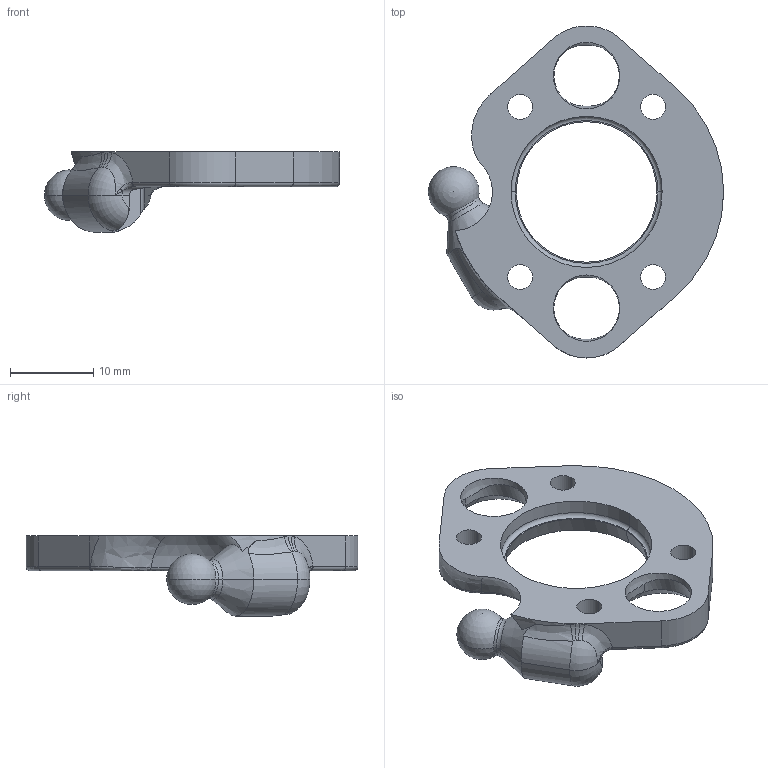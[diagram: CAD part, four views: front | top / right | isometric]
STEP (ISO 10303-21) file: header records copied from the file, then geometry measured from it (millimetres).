
FILE_DESCRIPTION (( 'STEP AP214' ), '1' );
FILE_NAME ('Ì44_ÏÌ_ÏÊÏ_Êðûøêà øàðîâîé.STEP', '2019-03-21T14:25:25', ( '' ), ( '' ), 'SwSTEP 2.0', 'SolidWorks 2018', '' );
FILE_SCHEMA (( 'AUTOMOTIVE_DESIGN' ));
Length unit declared in the file: millimetre
Products named in the file (1): Ì44_ÏÌ_ÏÊÏ_Êðûøêà øàðîâîé
Bounding box: 35.55 x 39.97 x 9.66 mm (x, y, z)
Volume: 2344.3 mm3; surface area: 2382.5 mm2
Topology: 1 solids, 1 shells, 126 faces, 349 edges, 222 vertices
Faces by surface type: plane 42, cylinder 36, bspline 26, torus 13, sphere 5, cone 4
Entity records: 7153 total; most frequent: CARTESIAN_POINT 4173, ORIENTED_EDGE 678, DIRECTION 530, EDGE_CURVE 339, VERTEX_POINT 217, AXIS2_PLACEMENT_3D 206, EDGE_LOOP 142, FACE_OUTER_BOUND 126
